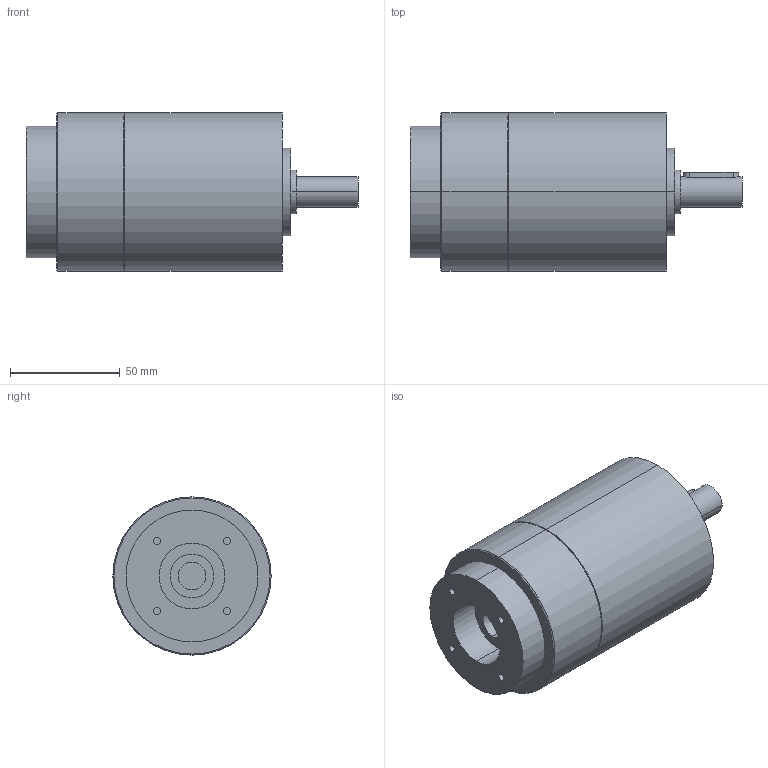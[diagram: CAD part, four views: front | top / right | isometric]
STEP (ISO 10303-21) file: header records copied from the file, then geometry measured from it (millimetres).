
FILE_DESCRIPTION(('CoCreate Modeling STEP Export'),'2;1');
FILE_NAME('GPT75_ig-9-12-16-20-25-28-35-40-50-70-100_14_B14T_12.7_P16.stp','2014-08-27T13:09:09',(''),(''),'CoCreate Modeling STEP processor for AP214 (Solid Model)','CoCreate Modeling 16.00C 25-Feb-2009 (C) Parametric Technology GmbH','');
FILE_SCHEMA(('AUTOMOTIVE_DESIGN { 1 0 10303 214 1 1 1 1 }'));
Length unit declared in the file: millimetre
Products named in the file (2): GPT75_ig-9-12-16-20-25-28-35-40-50-70-100_14_B14T_12.7_P16
Assembly tree (1 placements, depth 2):
  GPT75_ig-9-12-16-20-25-28-35-40-50-70-100_14_B14T_12.7_P16
    GPT75_ig-9-12-16-20-25-28-35-40-50-70-100_14_B14T_12.7_P16
Bounding box: 151 x 72 x 72 mm (x, y, z)
Volume: 452825.9 mm3; surface area: 40329.2 mm2
Topology: 1 solids, 1 shells, 64 faces, 142 edges, 97 vertices
Faces by surface type: cylinder 38, plane 22, cone 4
Entity records: 1878 total; most frequent: CARTESIAN_POINT 614, ORIENTED_EDGE 284, DIRECTION 210, EDGE_CURVE 142, VERTEX_POINT 97, AXIS2_PLACEMENT_3D 81, EDGE_LOOP 81, FACE_OUTER_BOUND 64
